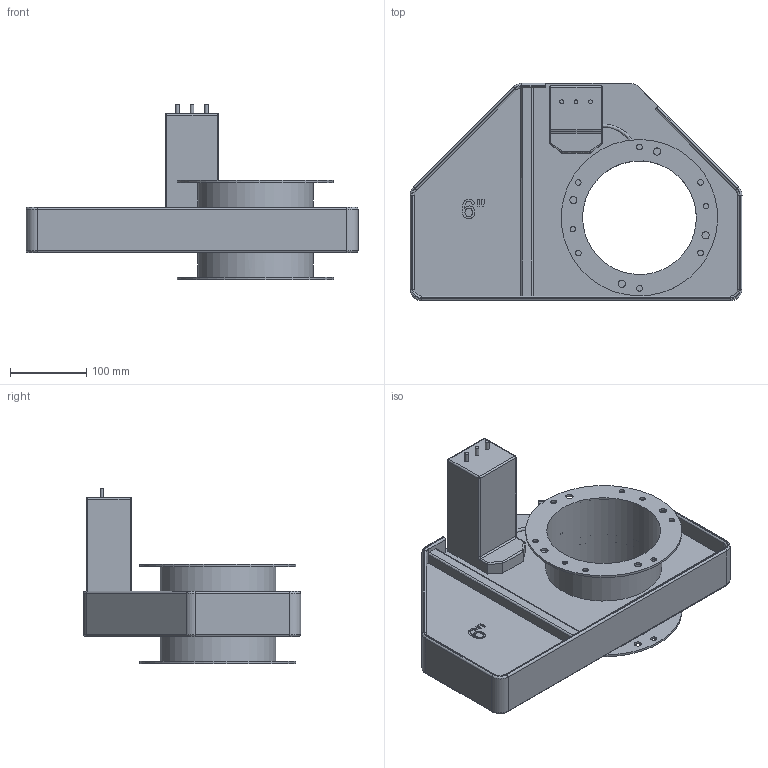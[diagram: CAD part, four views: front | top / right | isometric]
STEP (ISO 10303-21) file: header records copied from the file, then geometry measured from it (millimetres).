
FILE_DESCRIPTION( ('This file contains a STEP AP42 implementation' ,'as created by ZW3D STEP Interface translator.') ,'2;1' );
FILE_NAME( '3D Model-HO206 Body with drive.stp' ,'20 629.121749', (''), ('ZWCAD Software Co.'), 'Version 1.0', 'ZW3D to STEP translator', '' );
FILE_SCHEMA(('AUTOMOTIVE_DESIGN'));
Length unit declared in the file: millimetre
Products named in the file (1): 0
Bounding box: 436.63 x 285.67 x 230.3 mm (x, y, z)
Volume: 2342334 mm3; surface area: 532480.7 mm2
Topology: 2 solids, 2 shells, 615 faces, 1592 edges, 1061 vertices
Faces by surface type: bspline 615
Entity records: 20007 total; most frequent: CARTESIAN_POINT 9742, ORIENTED_EDGE 3128, EDGE_CURVE 1564, B_SPLINE_CURVE_WITH_KNOTS 1321, VERTEX_POINT 1012, EDGE_LOOP 724, FACE_OUTER_BOUND 615, ADVANCED_FACE 615
